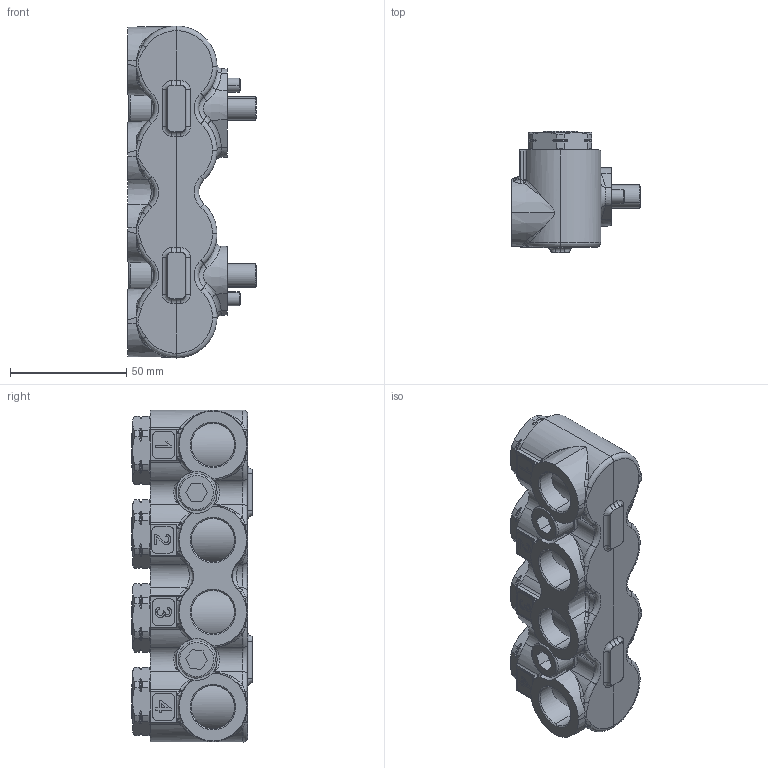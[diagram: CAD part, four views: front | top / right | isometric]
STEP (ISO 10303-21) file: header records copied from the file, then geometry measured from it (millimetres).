
FILE_DESCRIPTION (( 'STEP AP214' ), '1' );
FILE_NAME ('P7318-4A.STEP', '2023-05-25T09:12:12', ( '' ), ( '' ), 'SwSTEP 2.0', 'SolidWorks 2021', '' );
FILE_SCHEMA (( 'AUTOMOTIVE_DESIGN' ));
Length unit declared in the file: millimetre
Products named in the file (1): P7318-4A
Bounding box: 55.5 x 52 x 143 mm (x, y, z)
Volume: 226471.2 mm3; surface area: 55799.9 mm2
Topology: 25 solids, 25 shells, 969 faces, 2375 edges, 1487 vertices
Faces by surface type: cylinder 256, cone 215, plane 205, bspline 169, torus 124
Entity records: 49770 total; most frequent: CARTESIAN_POINT 17461, ORIENTED_EDGE 4742, DIRECTION 4150, EDGE_CURVE 2371, AXIS2_PLACEMENT_3D 1725, VERTEX_POINT 1487, EDGE_LOOP 1024, UNCERTAINTY_MEASURE_WITH_UNIT 996
